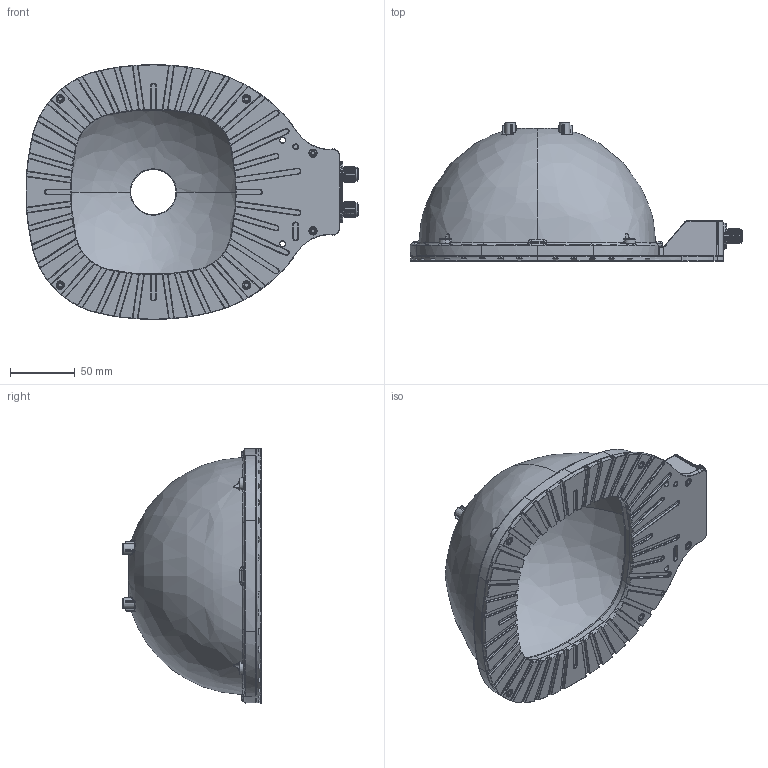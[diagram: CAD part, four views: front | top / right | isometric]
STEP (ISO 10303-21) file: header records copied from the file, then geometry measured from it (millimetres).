
FILE_DESCRIPTION (( 'STEP AP203' ), '1' );
FILE_NAME ('MR-130-D.STEP', '2017-02-07T12:15:12', ( '' ), ( '' ), 'SwSTEP 2.0', 'SolidWorks 2014', '' );
FILE_SCHEMA (( 'CONFIG_CONTROL_DESIGN' ));
Length unit declared in the file: millimetre
Products named in the file (1): MR-130-D
Bounding box: 256.72 x 107 x 196.96 mm (x, y, z)
Volume: 393710.1 mm3; surface area: 197155.4 mm2
Topology: 19 solids, 19 shells, 3242 faces, 7737 edges, 4339 vertices
Faces by surface type: cylinder 968, bspline 662, plane 610, torus 588, sphere 258, cone 156
Entity records: 123368 total; most frequent: CARTESIAN_POINT 54304, ORIENTED_EDGE 14870, DIRECTION 14265, EDGE_CURVE 7435, AXIS2_PLACEMENT_3D 5981, VERTEX_POINT 4335, CIRCLE 3400, EDGE_LOOP 3370
